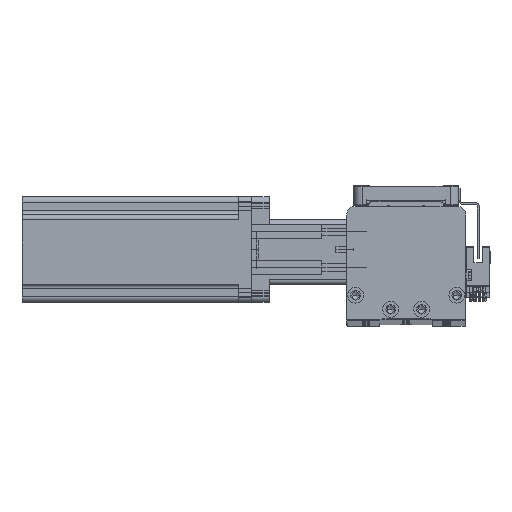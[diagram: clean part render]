
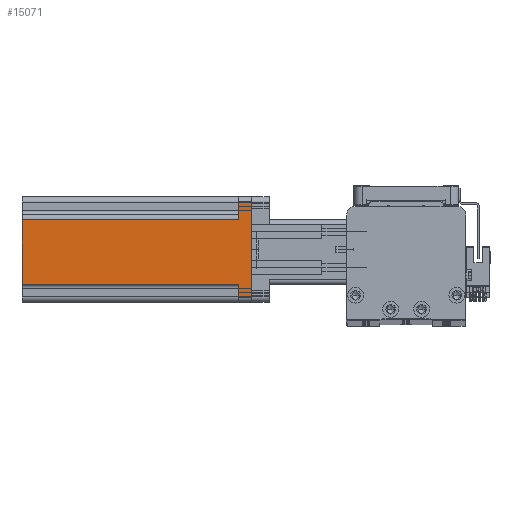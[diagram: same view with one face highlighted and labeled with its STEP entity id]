
A CAD part, top view. The second image highlights one B-rep face of the part: STEP entity #15071.
In plain terms, the highlighted planar face has unit normal (0, 0, 1) as drawn and (-1, 0, 0) by its records, which use the part's own axes.
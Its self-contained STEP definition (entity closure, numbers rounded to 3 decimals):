
#399 = DIRECTION ( 'NONE',  ( 0., -1., 0. ) ) ;
#677 = EDGE_CURVE ( 'NONE', #36736, #9334, #21443, .T. ) ;
#1451 = VERTEX_POINT ( 'NONE', #49180 ) ;
#2393 = CARTESIAN_POINT ( 'NONE',  ( -30., -27., 130.7 ) ) ;
#3268 = EDGE_CURVE ( 'NONE', #19622, #36095, #13348, .T. ) ;
#3805 = CARTESIAN_POINT ( 'NONE',  ( -30., -30., 130.7 ) ) ;
#3987 = VECTOR ( 'NONE', #36340, 1000. ) ;
#4519 = CARTESIAN_POINT ( 'NONE',  ( -30., -30., 0. ) ) ;
#5081 = ORIENTED_EDGE ( 'NONE', *, *, #677, .T. ) ;
#5770 = DIRECTION ( 'NONE',  ( 0., -1., 0. ) ) ;
#6098 = ORIENTED_EDGE ( 'NONE', *, *, #39251, .T. ) ;
#6282 = VERTEX_POINT ( 'NONE', #44592 ) ;
#7280 = EDGE_CURVE ( 'NONE', #47779, #36095, #47428, .T. ) ;
#7933 = FACE_OUTER_BOUND ( 'NONE', #20155, .T. ) ;
#8482 = VECTOR ( 'NONE', #399, 1000. ) ;
#8556 = LINE ( 'NONE', #51669, #29040 ) ;
#9334 = VERTEX_POINT ( 'NONE', #41670 ) ;
#9626 = VECTOR ( 'NONE', #18782, 1000. ) ;
#10552 = VECTOR ( 'NONE', #32402, 1000. ) ;
#11048 = LINE ( 'NONE', #4519, #8482 ) ;
#12556 = ORIENTED_EDGE ( 'NONE', *, *, #7280, .F. ) ;
#13348 = LINE ( 'NONE', #2393, #9626 ) ;
#13350 = CARTESIAN_POINT ( 'NONE',  ( -30., -30., 130.7 ) ) ;
#13860 = ORIENTED_EDGE ( 'NONE', *, *, #27119, .T. ) ;
#14315 = ORIENTED_EDGE ( 'NONE', *, *, #27288, .F. ) ;
#14966 = CARTESIAN_POINT ( 'NONE',  ( -30., 27., 130.7 ) ) ;
#15071 = ADVANCED_FACE ( 'NONE', ( #7933 ), #29454, .F. ) ;
#16088 = LINE ( 'NONE', #3805, #3987 ) ;
#17440 = DIRECTION ( 'NONE',  ( 0., 0., -1. ) ) ;
#17499 = VECTOR ( 'NONE', #36799, 1000. ) ;
#18406 = CARTESIAN_POINT ( 'NONE',  ( -30., -17., 7.5 ) ) ;
#18782 = DIRECTION ( 'NONE',  ( 0., 0., 1. ) ) ;
#19537 = VERTEX_POINT ( 'NONE', #38918 ) ;
#19622 = VERTEX_POINT ( 'NONE', #30870 ) ;
#20136 = CARTESIAN_POINT ( 'NONE',  ( -30., 20., 7.5 ) ) ;
#20153 = VECTOR ( 'NONE', #31266, 1000. ) ;
#20155 = EDGE_LOOP ( 'NONE', ( #12556, #6098, #30477, #14315, #5081, #13860, #53059, #41274 ) ) ;
#21443 = LINE ( 'NONE', #44498, #10552 ) ;
#21993 = AXIS2_PLACEMENT_3D ( 'NONE', #13350, #41954, #17440 ) ;
#22867 = EDGE_CURVE ( 'NONE', #1451, #19622, #11048, .T. ) ;
#25246 = CARTESIAN_POINT ( 'NONE',  ( -30., -30., 7.5 ) ) ;
#25705 = VECTOR ( 'NONE', #5770, 1000. ) ;
#26981 = DIRECTION ( 'NONE',  ( 0., 0., 1. ) ) ;
#27119 = EDGE_CURVE ( 'NONE', #9334, #1451, #31025, .T. ) ;
#27288 = EDGE_CURVE ( 'NONE', #36736, #19537, #29687, .T. ) ;
#28370 = CARTESIAN_POINT ( 'NONE',  ( -30., 20., 7.5 ) ) ;
#29040 = VECTOR ( 'NONE', #26981, 1000. ) ;
#29454 = PLANE ( 'NONE',  #21993 ) ;
#29687 = LINE ( 'NONE', #28370, #17499 ) ;
#30477 = ORIENTED_EDGE ( 'NONE', *, *, #49382, .F. ) ;
#30870 = CARTESIAN_POINT ( 'NONE',  ( -30., -27., 0. ) ) ;
#31025 = LINE ( 'NONE', #14966, #20153 ) ;
#31266 = DIRECTION ( 'NONE',  ( 0., 0., -1. ) ) ;
#32402 = DIRECTION ( 'NONE',  ( 0., 1., 0. ) ) ;
#36095 = VERTEX_POINT ( 'NONE', #48473 ) ;
#36340 = DIRECTION ( 'NONE',  ( 0., -1., 0. ) ) ;
#36736 = VERTEX_POINT ( 'NONE', #20136 ) ;
#36799 = DIRECTION ( 'NONE',  ( 0., 0., 1. ) ) ;
#38918 = CARTESIAN_POINT ( 'NONE',  ( -30., 20., 130.7 ) ) ;
#39251 = EDGE_CURVE ( 'NONE', #47779, #6282, #8556, .T. ) ;
#41274 = ORIENTED_EDGE ( 'NONE', *, *, #3268, .T. ) ;
#41670 = CARTESIAN_POINT ( 'NONE',  ( -30., 27., 7.5 ) ) ;
#41954 = DIRECTION ( 'NONE',  ( 1., 0., 0. ) ) ;
#44498 = CARTESIAN_POINT ( 'NONE',  ( -30., 30., 7.5 ) ) ;
#44592 = CARTESIAN_POINT ( 'NONE',  ( -30., -17., 130.7 ) ) ;
#47428 = LINE ( 'NONE', #25246, #25705 ) ;
#47779 = VERTEX_POINT ( 'NONE', #18406 ) ;
#48473 = CARTESIAN_POINT ( 'NONE',  ( -30., -27., 7.5 ) ) ;
#49180 = CARTESIAN_POINT ( 'NONE',  ( -30., 27., 0. ) ) ;
#49382 = EDGE_CURVE ( 'NONE', #19537, #6282, #16088, .T. ) ;
#51669 = CARTESIAN_POINT ( 'NONE',  ( -30., -17., 130.7 ) ) ;
#53059 = ORIENTED_EDGE ( 'NONE', *, *, #22867, .T. ) ;
